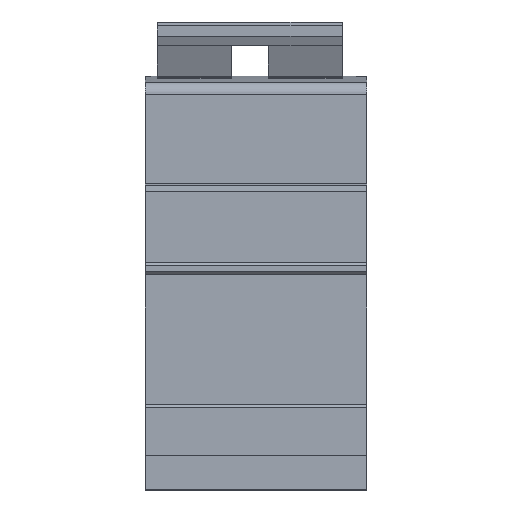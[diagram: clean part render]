
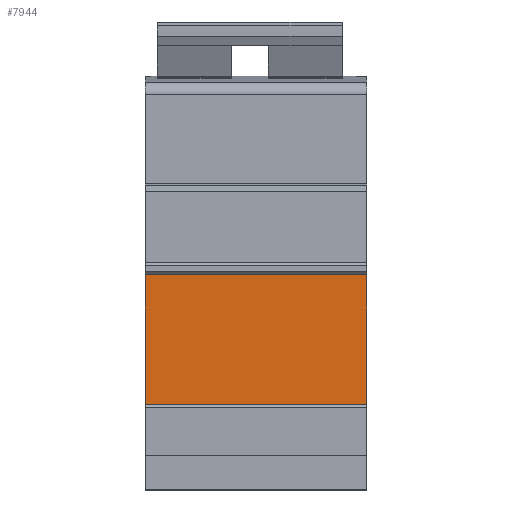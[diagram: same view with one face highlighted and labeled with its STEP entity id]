
A CAD part, front view. The second image highlights one B-rep face of the part: STEP entity #7944.
In plain terms, the highlighted planar face has unit normal (0, -1, 0).
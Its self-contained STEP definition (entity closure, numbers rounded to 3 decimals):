
#451=LINE('',#12709,#1140);
#477=LINE('',#12958,#1166);
#521=LINE('',#13049,#1210);
#522=LINE('',#13051,#1211);
#1140=VECTOR('',#9883,10.);
#1166=VECTOR('',#10199,10.);
#1210=VECTOR('',#10255,10.);
#1211=VECTOR('',#10258,10.);
#2058=FACE_OUTER_BOUND('',#2627,.T.);
#2627=EDGE_LOOP('',(#5988,#5989,#5990,#5991));
#3479=VERTEX_POINT('',#12706);
#3480=VERTEX_POINT('',#12708);
#3557=VERTEX_POINT('',#12955);
#3558=VERTEX_POINT('',#12957);
#4370=EDGE_CURVE('',#3479,#3480,#451,.T.);
#4468=EDGE_CURVE('',#3558,#3557,#477,.T.);
#4515=EDGE_CURVE('',#3557,#3480,#521,.T.);
#4516=EDGE_CURVE('',#3558,#3479,#522,.T.);
#5988=ORIENTED_EDGE('',*,*,#4468,.T.);
#5989=ORIENTED_EDGE('',*,*,#4515,.T.);
#5990=ORIENTED_EDGE('',*,*,#4370,.F.);
#5991=ORIENTED_EDGE('',*,*,#4516,.F.);
#7478=PLANE('',#8663);
#7944=ADVANCED_FACE('',(#2058),#7478,.T.);
#8663=AXIS2_PLACEMENT_3D('',#13050,#10256,#10257);
#9883=DIRECTION('',(0.,0.,-1.));
#10199=DIRECTION('',(0.,0.,-1.));
#10255=DIRECTION('',(1.,0.,0.));
#10256=DIRECTION('center_axis',(0.,-1.,0.));
#10257=DIRECTION('ref_axis',(0.,0.,-1.));
#10258=DIRECTION('',(1.,0.,0.));
#12706=CARTESIAN_POINT('',(36.,-45.241,5.4));
#12708=CARTESIAN_POINT('',(36.,-45.241,-15.712));
#12709=CARTESIAN_POINT('',(36.,-45.241,5.4));
#12955=CARTESIAN_POINT('',(0.,-45.241,-15.712));
#12957=CARTESIAN_POINT('',(0.,-45.241,5.4));
#12958=CARTESIAN_POINT('',(0.,-45.241,5.4));
#13049=CARTESIAN_POINT('',(0.,-45.241,-15.712));
#13050=CARTESIAN_POINT('Origin',(0.,-45.241,5.4));
#13051=CARTESIAN_POINT('',(0.,-45.241,5.4));
